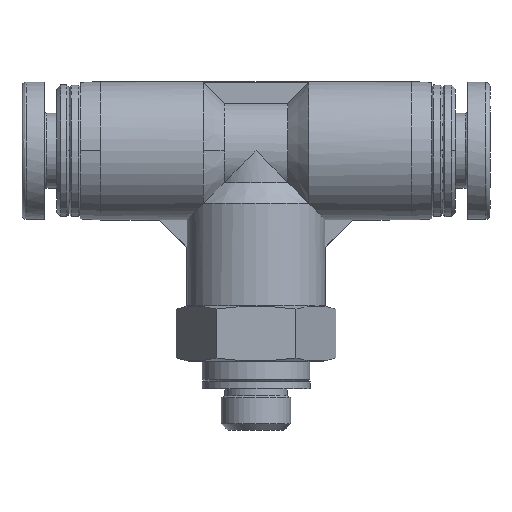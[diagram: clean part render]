
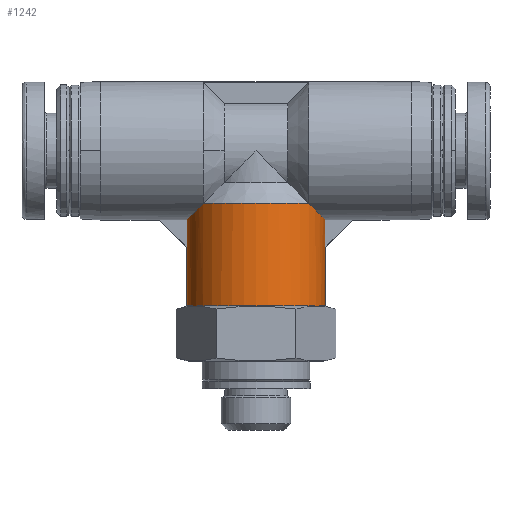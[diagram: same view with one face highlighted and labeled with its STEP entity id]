
A CAD part, front view. The second image highlights one B-rep face of the part: STEP entity #1242.
In plain terms, the highlighted cylindrical face has radius 5 mm (diameter 10 mm), a partial arc.
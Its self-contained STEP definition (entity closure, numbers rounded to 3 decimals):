
#137 =( BOUNDED_CURVE ( )  B_SPLINE_CURVE ( 3, ( #1353, #1333, #2099, #2360 ),
 .UNSPECIFIED., .F., .T. ) 
 B_SPLINE_CURVE_WITH_KNOTS ( ( 4, 4 ),
 ( 6.183, 6.283 ),
 .UNSPECIFIED. ) 
 CURVE ( )  GEOMETRIC_REPRESENTATION_ITEM ( )  RATIONAL_B_SPLINE_CURVE ( ( 1., 0.999, 0.999, 1. ) ) 
 REPRESENTATION_ITEM ( '' )  );
#161 = CARTESIAN_POINT ( 'NONE',  ( -4.975, -0.5, 15.225 ) ) ;
#231 = EDGE_CURVE ( 'NONE', #416, #640, #2966, .T. ) ;
#280 = EDGE_CURVE ( 'NONE', #2215, #1886, #3016, .T. ) ;
#313 = EDGE_LOOP ( 'NONE', ( #2861, #2874, #2904, #2924, #3428, #3538, #3498, #3534, #3564, #3567 ) ) ;
#330 = LINE ( 'NONE', #3843, #2810 ) ;
#387 = AXIS2_PLACEMENT_3D ( 'NONE', #2458, #2336, #2150 ) ;
#416 = VERTEX_POINT ( 'NONE', #718 ) ;
#449 = DIRECTION ( 'NONE',  ( 0., 0., 1. ) ) ;
#450 = CARTESIAN_POINT ( 'NONE',  ( -5., 0., 9. ) ) ;
#463 = CARTESIAN_POINT ( 'NONE',  ( 0., 0., 9. ) ) ;
#468 = CARTESIAN_POINT ( 'NONE',  ( 3.8, -3.25, 16.4 ) ) ;
#475 = DIRECTION ( 'NONE',  ( 1., 0., 0. ) ) ;
#505 = VERTEX_POINT ( 'NONE', #615 ) ;
#615 = CARTESIAN_POINT ( 'NONE',  ( 5., 0., 13.2 ) ) ;
#616 = CARTESIAN_POINT ( 'NONE',  ( 4.975, -0.5, 15.225 ) ) ;
#640 = VERTEX_POINT ( 'NONE', #1024 ) ;
#692 = CARTESIAN_POINT ( 'NONE',  ( 4.872, -1.523, 15.328 ) ) ;
#714 = VERTEX_POINT ( 'NONE', #450 ) ;
#718 = CARTESIAN_POINT ( 'NONE',  ( 3.8, -3.25, 16.4 ) ) ;
#741 = CIRCLE ( 'NONE', #387, 5. ) ;
#805 = CARTESIAN_POINT ( 'NONE',  ( -5., 0., 13.2 ) ) ;
#901 = CARTESIAN_POINT ( 'NONE',  ( -4.975, -0.5, 13.175 ) ) ;
#932 = VERTEX_POINT ( 'NONE', #3649 ) ;
#995 = VERTEX_POINT ( 'NONE', #901 ) ;
#1024 = CARTESIAN_POINT ( 'NONE',  ( 4.975, -0.5, 15.225 ) ) ;
#1226 = VERTEX_POINT ( 'NONE', #805 ) ;
#1242 = ADVANCED_FACE ( '50', ( #3037 ), #2879, .T. ) ;
#1333 = CARTESIAN_POINT ( 'NONE',  ( 4.992, -0.334, 13.192 ) ) ;
#1353 = CARTESIAN_POINT ( 'NONE',  ( 4.975, -0.5, 13.175 ) ) ;
#1402 = VECTOR ( 'NONE', #3466, 1000. ) ;
#1562 =( BOUNDED_CURVE ( )  B_SPLINE_CURVE ( 3, ( #3422, #3159, #3147, #2919 ),
 .UNSPECIFIED., .F., .F. ) 
 B_SPLINE_CURVE_WITH_KNOTS ( ( 4, 4 ),
 ( 0., 0.1 ),
 .UNSPECIFIED. ) 
 CURVE ( )  GEOMETRIC_REPRESENTATION_ITEM ( )  RATIONAL_B_SPLINE_CURVE ( ( 1., 0.999, 0.999, 1. ) ) 
 REPRESENTATION_ITEM ( '' )  );
#1574 = VECTOR ( 'NONE', #3139, 1000. ) ;
#1597 = LINE ( 'NONE', #3042, #1402 ) ;
#1622 = EDGE_CURVE ( 'NONE', #932, #505, #137, .T. ) ;
#1686 = LINE ( 'NONE', #3855, #1574 ) ;
#1733 = AXIS2_PLACEMENT_3D ( 'NONE', #3500, #3424, #3415 ) ;
#1886 = VERTEX_POINT ( 'NONE', #2238 ) ;
#1953 = EDGE_CURVE ( 'NONE', #1226, #995, #1562, .T. ) ;
#2088 = CARTESIAN_POINT ( 'NONE',  ( 5., 0., 9. ) ) ;
#2099 = CARTESIAN_POINT ( 'NONE',  ( 5., -0.167, 13.2 ) ) ;
#2150 = DIRECTION ( 'NONE',  ( 1., 0., 0. ) ) ;
#2196 = CARTESIAN_POINT ( 'NONE',  ( -3.8, -3.25, 16.4 ) ) ;
#2215 = VERTEX_POINT ( 'NONE', #161 ) ;
#2231 = CARTESIAN_POINT ( 'NONE',  ( -4.468, -2.468, 15.732 ) ) ;
#2238 = CARTESIAN_POINT ( 'NONE',  ( -3.8, -3.25, 16.4 ) ) ;
#2261 = CARTESIAN_POINT ( 'NONE',  ( -4.975, -0.5, 15.225 ) ) ;
#2283 = AXIS2_PLACEMENT_3D ( 'NONE', #463, #449, #475 ) ;
#2336 = DIRECTION ( 'NONE',  ( 0., 0., -1. ) ) ;
#2360 = CARTESIAN_POINT ( 'NONE',  ( 5., 0., 13.2 ) ) ;
#2413 = DIRECTION ( 'NONE',  ( 0., 0., 1. ) ) ;
#2458 = CARTESIAN_POINT ( 'NONE',  ( 0., 0., 16.4 ) ) ;
#2504 = LINE ( 'NONE', #3833, #3024 ) ;
#2772 = VERTEX_POINT ( 'NONE', #2088 ) ;
#2773 = CARTESIAN_POINT ( 'NONE',  ( -4.872, -1.523, 15.328 ) ) ;
#2810 = VECTOR ( 'NONE', #3857, 1000. ) ;
#2861 = ORIENTED_EDGE ( 'NONE', *, *, #3385, .F. ) ;
#2874 = ORIENTED_EDGE ( 'NONE', *, *, #3219, .T. ) ;
#2879 = CYLINDRICAL_SURFACE ( 'NONE', #2283, 5. ) ;
#2904 = ORIENTED_EDGE ( 'NONE', *, *, #3194, .T. ) ;
#2919 = CARTESIAN_POINT ( 'NONE',  ( -4.975, -0.5, 13.175 ) ) ;
#2924 = ORIENTED_EDGE ( 'NONE', *, *, #1622, .F. ) ;
#2966 =( BOUNDED_CURVE ( )  B_SPLINE_CURVE ( 3, ( #468, #3161, #692, #616 ),
 .UNSPECIFIED., .F., .T. ) 
 B_SPLINE_CURVE_WITH_KNOTS ( ( 4, 4 ),
 ( 2.434, 3.041 ),
 .UNSPECIFIED. ) 
 CURVE ( )  GEOMETRIC_REPRESENTATION_ITEM ( )  RATIONAL_B_SPLINE_CURVE ( ( 1., 0.969, 0.969, 1. ) ) 
 REPRESENTATION_ITEM ( '' )  );
#3016 =( BOUNDED_CURVE ( )  B_SPLINE_CURVE ( 3, ( #2261, #2773, #2231, #2196 ),
 .UNSPECIFIED., .F., .T. ) 
 B_SPLINE_CURVE_WITH_KNOTS ( ( 4, 4 ),
 ( 3.242, 3.849 ),
 .UNSPECIFIED. ) 
 CURVE ( )  GEOMETRIC_REPRESENTATION_ITEM ( )  RATIONAL_B_SPLINE_CURVE ( ( 1., 0.969, 0.969, 1. ) ) 
 REPRESENTATION_ITEM ( '' )  );
#3024 = VECTOR ( 'NONE', #2413, 1000. ) ;
#3028 = CIRCLE ( 'NONE', #1733, 5. ) ;
#3037 = FACE_OUTER_BOUND ( 'NONE', #313, .T. ) ;
#3042 = CARTESIAN_POINT ( 'NONE',  ( -5., 0., 9. ) ) ;
#3139 = DIRECTION ( 'NONE',  ( 0., 0., 1. ) ) ;
#3147 = CARTESIAN_POINT ( 'NONE',  ( -4.992, -0.334, 13.192 ) ) ;
#3159 = CARTESIAN_POINT ( 'NONE',  ( -5., -0.167, 13.2 ) ) ;
#3161 = CARTESIAN_POINT ( 'NONE',  ( 4.468, -2.468, 15.732 ) ) ;
#3194 = EDGE_CURVE ( 'NONE', #2772, #505, #2504, .T. ) ;
#3219 = EDGE_CURVE ( 'NONE', #714, #2772, #3028, .T. ) ;
#3385 = EDGE_CURVE ( 'NONE', #714, #1226, #1597, .T. ) ;
#3415 = DIRECTION ( 'NONE',  ( 1., 0., 0. ) ) ;
#3422 = CARTESIAN_POINT ( 'NONE',  ( -5., 0., 13.2 ) ) ;
#3424 = DIRECTION ( 'NONE',  ( 0., 0., 1. ) ) ;
#3428 = ORIENTED_EDGE ( 'NONE', *, *, #3948, .T. ) ;
#3466 = DIRECTION ( 'NONE',  ( 0., 0., 1. ) ) ;
#3498 = ORIENTED_EDGE ( 'NONE', *, *, #3951, .T. ) ;
#3500 = CARTESIAN_POINT ( 'NONE',  ( 0., 0., 9. ) ) ;
#3530 = EDGE_CURVE ( 'NONE', #2215, #995, #330, .T. ) ;
#3534 = ORIENTED_EDGE ( 'NONE', *, *, #280, .F. ) ;
#3538 = ORIENTED_EDGE ( 'NONE', *, *, #231, .F. ) ;
#3564 = ORIENTED_EDGE ( 'NONE', *, *, #3530, .T. ) ;
#3567 = ORIENTED_EDGE ( 'NONE', *, *, #1953, .F. ) ;
#3649 = CARTESIAN_POINT ( 'NONE',  ( 4.975, -0.5, 13.175 ) ) ;
#3833 = CARTESIAN_POINT ( 'NONE',  ( 5., 0., 9. ) ) ;
#3843 = CARTESIAN_POINT ( 'NONE',  ( -4.975, -0.5, 9. ) ) ;
#3855 = CARTESIAN_POINT ( 'NONE',  ( 4.975, -0.5, 9. ) ) ;
#3857 = DIRECTION ( 'NONE',  ( 0., 0., -1. ) ) ;
#3948 = EDGE_CURVE ( 'NONE', #932, #640, #1686, .T. ) ;
#3951 = EDGE_CURVE ( 'NONE', #416, #1886, #741, .T. ) ;
